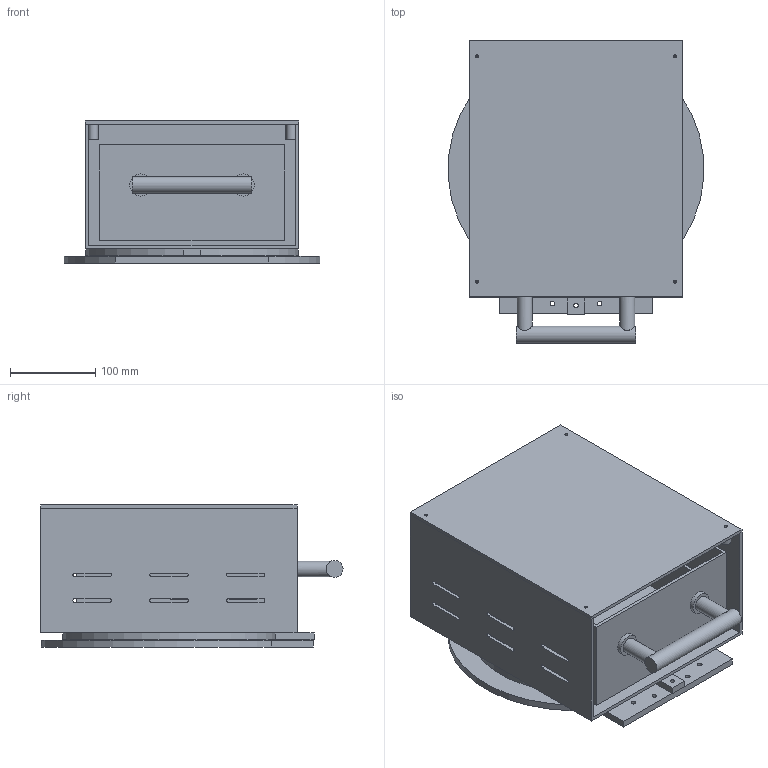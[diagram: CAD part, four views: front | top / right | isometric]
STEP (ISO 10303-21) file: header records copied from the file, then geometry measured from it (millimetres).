
FILE_DESCRIPTION(('Open CASCADE Model'),'2;1');
FILE_NAME('Open CASCADE Shape Model','2026-10-21T16:58:02',('Author'),( 'Open CASCADE'),'Open CASCADE STEP processor 7.9','Open CASCADE 7.9' ,'Unknown');
FILE_SCHEMA(('AUTOMOTIVE_DESIGN { 1 0 10303 214 1 1 1 1 }'));
Length unit declared in the file: millimetre
Products named in the file (7): P02_illustrative; index_base_0; index_rotor_1; cabinet_shell_2; cabinet_roof_3; drawer_tub_4; drawer_handle_5
Assembly tree (6 placements, depth 2):
  P02_illustrative
    index_base_0
    index_rotor_1
    cabinet_shell_2
    cabinet_roof_3
    drawer_tub_4
    drawer_handle_5
Bounding box: 299.35 x 354 x 166.5 mm (x, y, z)
Volume: 2749187.9 mm3; surface area: 1146325 mm2
Topology: 6 solids, 6 shells, 198 faces, 529 edges, 352 vertices
Faces by surface type: plane 105, cylinder 93
Full cylindrical faces by diameter (mm): 2.5 x4, 3.3 x2, 3.4 x4, 4.5 x10, 5.3 x8, 8.5 x2, 18 x2, 20 x1, 26 x2
Entity records: 14928 total; most frequent: CARTESIAN_POINT 4112, DIRECTION 2011, LINE 1207, VECTOR 1207, ORIENTED_EDGE 1058, PCURVE 1058, DEFINITIONAL_REPRESENTATION 1058, EDGE_CURVE 529
